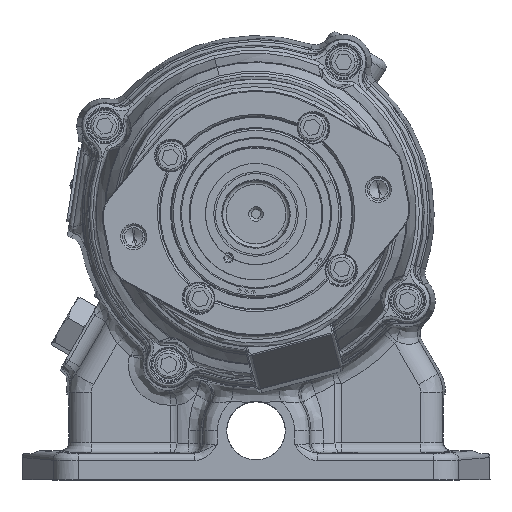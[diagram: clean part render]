
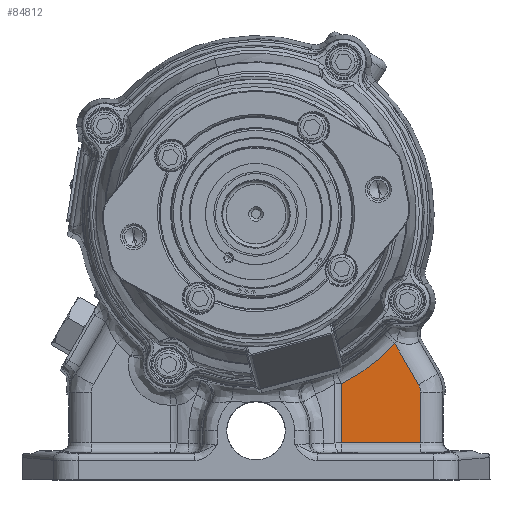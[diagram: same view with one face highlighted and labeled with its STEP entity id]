
A CAD part, top view. The second image highlights one B-rep face of the part: STEP entity #84812.
In plain terms, the highlighted planar face has unit normal (0, 0, 1).
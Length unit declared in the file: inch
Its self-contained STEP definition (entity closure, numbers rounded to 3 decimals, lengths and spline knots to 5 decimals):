
#5178 = DIRECTION ( 'NONE',  ( 0.712, 0.702, 0. ) ) ;
#5326 = CARTESIAN_POINT ( 'NONE',  ( -1.98208, -1.95396, 1.81475 ) ) ;
#7221 = PLANE ( 'NONE',  #27398 ) ;
#7969 = DIRECTION ( 'NONE',  ( 0.712, 0.702, 0. ) ) ;
#9663 = CARTESIAN_POINT ( 'NONE',  ( -2.45558, -1.01594, 1.81475 ) ) ;
#11122 = CARTESIAN_POINT ( 'NONE',  ( -1.89516, -1.08436, 1.81475 ) ) ;
#15064 = ORIENTED_EDGE ( 'NONE', *, *, #24331, .T. ) ;
#19673 = CARTESIAN_POINT ( 'NONE',  ( -0.77927, 1.09874, 1.81475 ) ) ;
#21378 = CARTESIAN_POINT ( 'NONE',  ( -1.91667, -1.84244, 1.81475 ) ) ;
#24331 = EDGE_CURVE ( 'NONE', #48587, #130911, #38571, .T. ) ;
#27398 = AXIS2_PLACEMENT_3D ( 'NONE', #144452, #41175, #7969 ) ;
#28753 = CARTESIAN_POINT ( 'NONE',  ( -4.5335, -0.58624, 1.81475 ) ) ;
#31960 = LINE ( 'NONE', #21378, #133130 ) ;
#34020 = ORIENTED_EDGE ( 'NONE', *, *, #48922, .T. ) ;
#38571 = B_SPLINE_CURVE_WITH_KNOTS ( 'NONE', 3,
 ( #126442, #11122, #46582, #9663, #56382, #149118 ),
 .UNSPECIFIED., .F., .F.,
 ( 4, 2, 4 ),
 ( 0., 0.5, 1. ),
 .UNSPECIFIED. ) ;
#40022 = CARTESIAN_POINT ( 'NONE',  ( -1.91667, -1.84244, 1.81475 ) ) ;
#41175 = DIRECTION ( 'NONE',  ( 0., 0., 1. ) ) ;
#45189 = CARTESIAN_POINT ( 'NONE',  ( -2.81672, -0.91091, 1.81475 ) ) ;
#46582 = CARTESIAN_POINT ( 'NONE',  ( -2.08267, -1.07259, 1.81475 ) ) ;
#48587 = VERTEX_POINT ( 'NONE', #92859 ) ;
#48922 = EDGE_CURVE ( 'NONE', #96443, #70480, #96789, .T. ) ;
#54858 = EDGE_CURVE ( 'NONE', #133497, #142331, #74762, .T. ) ;
#55075 = VECTOR ( 'NONE', #79231, 39.37008 ) ;
#55471 = EDGE_LOOP ( 'NONE', ( #104471, #34020, #120916, #15064, #76795, #149264 ) ) ;
#56382 = CARTESIAN_POINT ( 'NONE',  ( -2.63811, -0.97149, 1.81475 ) ) ;
#62507 = LINE ( 'NONE', #131825, #83593 ) ;
#65693 = LINE ( 'NONE', #19673, #55075 ) ;
#68142 = DIRECTION ( 'NONE',  ( 0.265, 0.964, 0. ) ) ;
#70480 = VERTEX_POINT ( 'NONE', #143284 ) ;
#72500 = CARTESIAN_POINT ( 'NONE',  ( -1.92249, -1.86358, 1.81475 ) ) ;
#74762 = LINE ( 'NONE', #28753, #136120 ) ;
#76795 = ORIENTED_EDGE ( 'NONE', *, *, #97045, .T. ) ;
#79231 = DIRECTION ( 'NONE',  ( -0.712, -0.702, 0. ) ) ;
#83095 = DIRECTION ( 'NONE',  ( 0.702, -0.712, 0. ) ) ;
#83593 = VECTOR ( 'NONE', #5178, 39.37008 ) ;
#84812 = ADVANCED_FACE ( 'NONE', ( #146694 ), #7221, .T. ) ;
#92859 = CARTESIAN_POINT ( 'NONE',  ( -1.70662, -1.07955, 1.81475 ) ) ;
#93046 = EDGE_CURVE ( 'NONE', #142331, #96443, #62507, .T. ) ;
#96443 = VERTEX_POINT ( 'NONE', #112933 ) ;
#96789 = B_SPLINE_CURVE_WITH_KNOTS ( 'NONE', 3,
 ( #5326, #106389, #97332, #129764, #72500, #40022 ),
 .UNSPECIFIED., .F., .F.,
 ( 4, 2, 4 ),
 ( 0., 0.5, 1. ),
 .UNSPECIFIED. ) ;
#97045 = EDGE_CURVE ( 'NONE', #130911, #133497, #65693, .T. ) ;
#97332 = CARTESIAN_POINT ( 'NONE',  ( -1.95312, -1.92141, 1.81475 ) ) ;
#104471 = ORIENTED_EDGE ( 'NONE', *, *, #93046, .T. ) ;
#106346 = EDGE_CURVE ( 'NONE', #70480, #48587, #31960, .T. ) ;
#106389 = CARTESIAN_POINT ( 'NONE',  ( -1.96648, -1.93857, 1.81475 ) ) ;
#112933 = CARTESIAN_POINT ( 'NONE',  ( -1.98208, -1.95396, 1.81475 ) ) ;
#120916 = ORIENTED_EDGE ( 'NONE', *, *, #106346, .T. ) ;
#126442 = CARTESIAN_POINT ( 'NONE',  ( -1.70662, -1.07955, 1.81475 ) ) ;
#127559 = CARTESIAN_POINT ( 'NONE',  ( -3.52458, -1.60911, 1.81475 ) ) ;
#129764 = CARTESIAN_POINT ( 'NONE',  ( -1.93094, -1.88361, 1.81475 ) ) ;
#130911 = VERTEX_POINT ( 'NONE', #45189 ) ;
#131825 = CARTESIAN_POINT ( 'NONE',  ( 0.1538, 0.15277, 1.81475 ) ) ;
#133130 = VECTOR ( 'NONE', #68142, 39.37008 ) ;
#133497 = VERTEX_POINT ( 'NONE', #127559 ) ;
#136120 = VECTOR ( 'NONE', #83095, 39.37008 ) ;
#142331 = VERTEX_POINT ( 'NONE', #148063 ) ;
#143284 = CARTESIAN_POINT ( 'NONE',  ( -1.91667, -1.84244, 1.81475 ) ) ;
#144452 = CARTESIAN_POINT ( 'NONE',  ( -1.78818, 2.12162, 1.81475 ) ) ;
#146694 = FACE_OUTER_BOUND ( 'NONE', #55471, .T. ) ;
#148063 = CARTESIAN_POINT ( 'NONE',  ( -2.59152, -2.55508, 1.81475 ) ) ;
#149118 = CARTESIAN_POINT ( 'NONE',  ( -2.81672, -0.91091, 1.81475 ) ) ;
#149264 = ORIENTED_EDGE ( 'NONE', *, *, #54858, .T. ) ;
